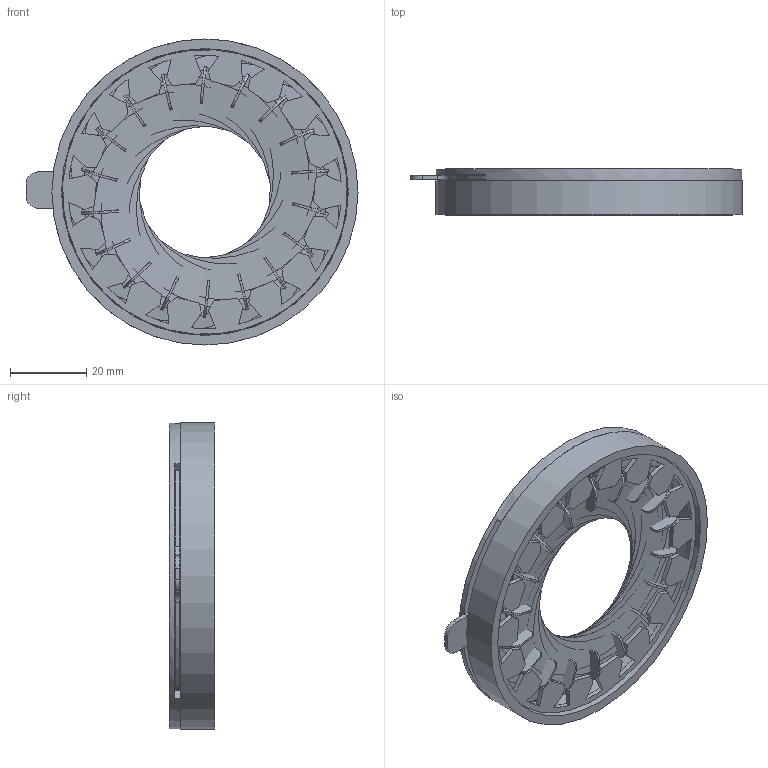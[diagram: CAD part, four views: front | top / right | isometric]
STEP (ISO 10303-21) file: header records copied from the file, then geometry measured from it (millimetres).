
FILE_DESCRIPTION(/* description */ (''),/* implementation_level */ '2;1');
FILE_NAME(/* name */ 'mechanical iris step v1.step',/* time_stamp */ '2023-04-03T22:11:47+03:00',/* author */ (''),/* organization */ (''),/* preprocessor_version */ 'ST-DEVELOPER v19.2',/* originating_system */ 'Autodesk Translation Framework v11.17.0.187',/* authorisation */ '');
FILE_SCHEMA (('AUTOMOTIVE_DESIGN { 1 0 10303 214 3 1 1 }'));
Length unit declared in the file: millimetre
Products named in the file (7): mechanical iris; 1; 2; body; pin; leaf; cover
Assembly tree (6 placements, depth 2):
  mechanical iris
    1
    2
    body
    pin
    leaf
    cover
Bounding box: 86.94 x 12 x 80.17 mm (x, y, z)
Volume: 18252.4 mm3; surface area: 48845.1 mm2
Topology: 23 solids, 23 shells, 446 faces, 1143 edges, 744 vertices
Faces by surface type: plane 252, cylinder 176, bspline 18
Full cylindrical faces by diameter (mm): 2.2 x1, 3.15 x18, 3.2 x18, 5.15 x1, 55.562 x1, 61.013 x1, 74.613 x1, 75.013 x1, 75.113 x1, 80.012 x1, 80.175 x1
Entity records: 14425 total; most frequent: CARTESIAN_POINT 3012, DIRECTION 2363, ORIENTED_EDGE 2286, EDGE_CURVE 1143, AXIS2_PLACEMENT_3D 815, VERTEX_POINT 744, LINE 733, VECTOR 733
